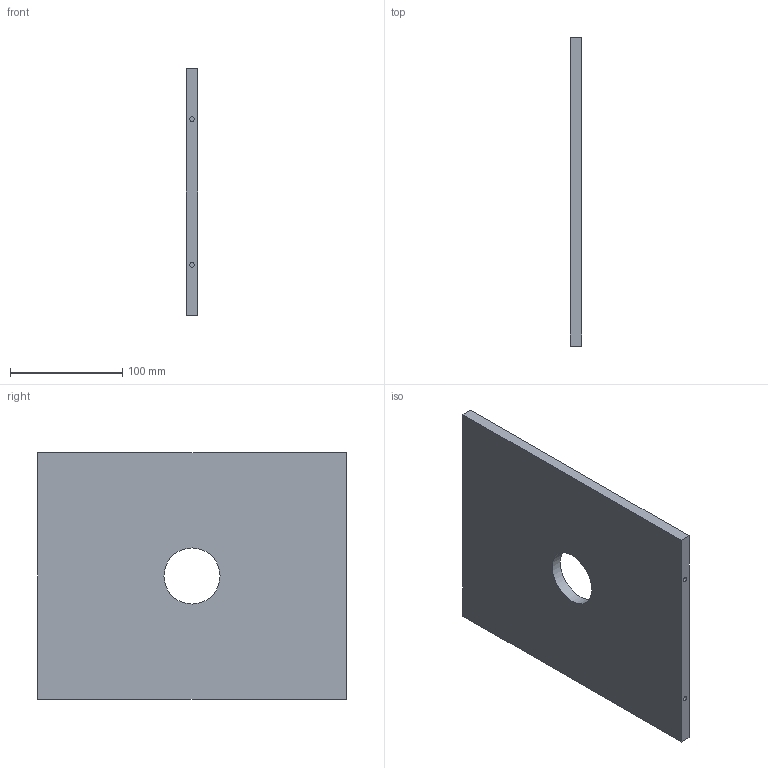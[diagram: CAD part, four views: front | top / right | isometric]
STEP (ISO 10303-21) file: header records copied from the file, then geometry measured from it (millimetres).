
FILE_DESCRIPTION(('FreeCAD Model'),'2;1');
FILE_NAME( '/home/bluelambda/Documents/Arcade/cad/step/screen_support.step', '2016-05-08T12:24:22',('Author'),(''), 'Open CASCADE STEP processor 6.9','FreeCAD','Unknown');
FILE_SCHEMA(('AUTOMOTIVE_DESIGN { 1 0 10303 214 1 1 1 1 }'));
Length unit declared in the file: millimetre
Products named in the file (1): screen_support
Bounding box: 10 x 275 x 220 mm (x, y, z)
Volume: 584862.4 mm3; surface area: 129046.5 mm2
Topology: 1 solids, 1 shells, 15 faces, 27 edges, 18 vertices
Faces by surface type: plane 10, cylinder 5
Full cylindrical faces by diameter (mm): 4 x4, 50 x1
Entity records: 753 total; most frequent: CARTESIAN_POINT 127, DIRECTION 121, LINE 61, VECTOR 61, ORIENTED_EDGE 54, PCURVE 54, DEFINITIONAL_REPRESENTATION 54, EDGE_CURVE 27
